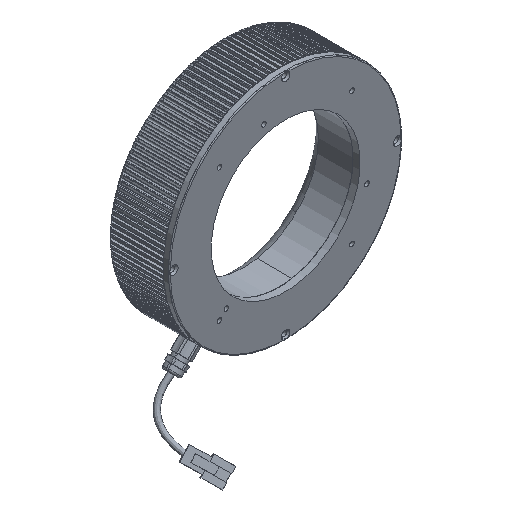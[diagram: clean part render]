
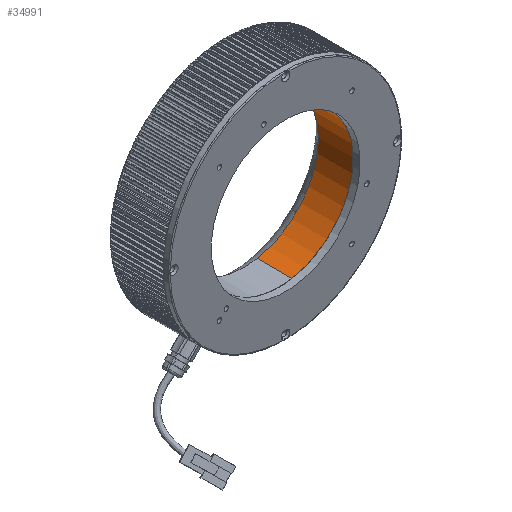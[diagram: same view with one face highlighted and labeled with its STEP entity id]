
A CAD part, isometric view. The second image highlights one B-rep face of the part: STEP entity #34991.
In plain terms, the highlighted cylindrical face has radius 42.1 mm (diameter 84.2 mm), a partial arc.
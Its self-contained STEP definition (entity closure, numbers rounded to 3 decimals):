
#37 = CIRCLE ( 'NONE', #47529, 42.1 ) ;
#7844 = CARTESIAN_POINT ( 'NONE',  ( 0., 0., 0. ) ) ;
#8964 = DIRECTION ( 'NONE',  ( 0., 0., -1. ) ) ;
#11787 = EDGE_LOOP ( 'NONE', ( #47925, #17349, #38883, #51447 ) ) ;
#11870 = DIRECTION ( 'NONE',  ( 0., 0., -1. ) ) ;
#16660 = CYLINDRICAL_SURFACE ( 'NONE', #41964, 42.1 ) ;
#16978 = VERTEX_POINT ( 'NONE', #51600 ) ;
#17349 = ORIENTED_EDGE ( 'NONE', *, *, #31439, .F. ) ;
#17946 = FACE_OUTER_BOUND ( 'NONE', #11787, .T. ) ;
#18342 = CARTESIAN_POINT ( 'NONE',  ( 0., 19.6, 0. ) ) ;
#18699 = VERTEX_POINT ( 'NONE', #41851 ) ;
#22356 = DIRECTION ( 'NONE',  ( 0., 0., -1. ) ) ;
#23874 = EDGE_CURVE ( 'NONE', #18699, #35512, #29411, .T. ) ;
#24760 = VERTEX_POINT ( 'NONE', #34715 ) ;
#29411 = LINE ( 'NONE', #35834, #38770 ) ;
#29999 = EDGE_CURVE ( 'NONE', #35512, #16978, #34028, .T. ) ;
#31439 = EDGE_CURVE ( 'NONE', #18699, #24760, #37, .T. ) ;
#31794 = DIRECTION ( 'NONE',  ( 0., -1., 0. ) ) ;
#32884 = CARTESIAN_POINT ( 'NONE',  ( 0., 0., 0. ) ) ;
#33640 = VECTOR ( 'NONE', #39764, 1000. ) ;
#34028 = CIRCLE ( 'NONE', #38124, 42.1 ) ;
#34271 = EDGE_CURVE ( 'NONE', #24760, #16978, #45501, .T. ) ;
#34715 = CARTESIAN_POINT ( 'NONE',  ( 0., 19.6, 42.1 ) ) ;
#34991 = ADVANCED_FACE ( 'NONE', ( #17946 ), #16660, .F. ) ;
#35512 = VERTEX_POINT ( 'NONE', #38218 ) ;
#35749 = CARTESIAN_POINT ( 'NONE',  ( 0., 0., 42.1 ) ) ;
#35793 = DIRECTION ( 'NONE',  ( 0., -1., 0. ) ) ;
#35834 = CARTESIAN_POINT ( 'NONE',  ( 0., 0., -42.1 ) ) ;
#38124 = AXIS2_PLACEMENT_3D ( 'NONE', #7844, #35793, #11870 ) ;
#38218 = CARTESIAN_POINT ( 'NONE',  ( 0., 0., -42.1 ) ) ;
#38770 = VECTOR ( 'NONE', #31794, 1000. ) ;
#38883 = ORIENTED_EDGE ( 'NONE', *, *, #23874, .T. ) ;
#39764 = DIRECTION ( 'NONE',  ( 0., -1., 0. ) ) ;
#40738 = DIRECTION ( 'NONE',  ( 0., -1., 0. ) ) ;
#41851 = CARTESIAN_POINT ( 'NONE',  ( 0., 19.6, -42.1 ) ) ;
#41964 = AXIS2_PLACEMENT_3D ( 'NONE', #32884, #40738, #8964 ) ;
#45501 = LINE ( 'NONE', #35749, #33640 ) ;
#46289 = DIRECTION ( 'NONE',  ( 0., -1., 0. ) ) ;
#47529 = AXIS2_PLACEMENT_3D ( 'NONE', #18342, #46289, #22356 ) ;
#47925 = ORIENTED_EDGE ( 'NONE', *, *, #34271, .F. ) ;
#51447 = ORIENTED_EDGE ( 'NONE', *, *, #29999, .T. ) ;
#51600 = CARTESIAN_POINT ( 'NONE',  ( 0., 0., 42.1 ) ) ;
